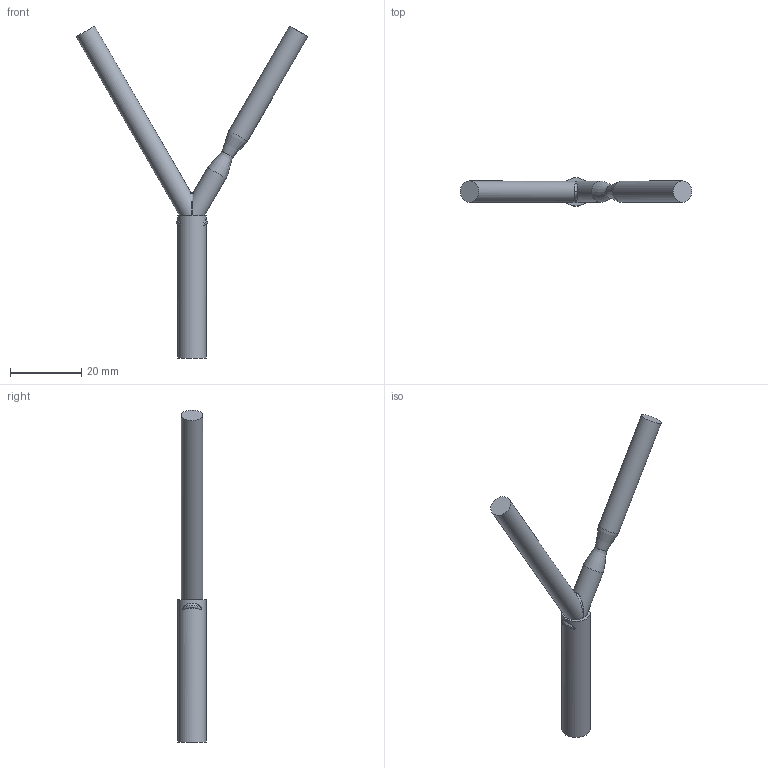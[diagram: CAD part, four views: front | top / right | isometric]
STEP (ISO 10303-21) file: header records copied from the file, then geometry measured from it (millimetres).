
FILE_DESCRIPTION(('Open CASCADE Model'),'2;1');
FILE_NAME('Open CASCADE Shape Model','2026-10-29T17:59:19',('Author'),( 'Open CASCADE'),'Open CASCADE STEP processor 7.9','Open CASCADE 7.9' ,'Unknown');
FILE_SCHEMA(('AUTOMOTIVE_DESIGN { 1 0 10303 214 1 1 1 1 }'));
Length unit declared in the file: millimetre
Products named in the file (1): Open CASCADE STEP translator 7.9 3
Bounding box: 65.2 x 8 x 93.46 mm (x, y, z)
Volume: 5208.2 mm3; surface area: 3268.4 mm2
Topology: 1 solids, 1 shells, 18 faces, 38 edges, 22 vertices
Faces by surface type: cylinder 6, plane 6, torus 2, bspline 2, revolution 2
Full cylindrical faces by diameter (mm): 6 x3, 8 x1
Entity records: 2398 total; most frequent: CARTESIAN_POINT 1696, DIRECTION 116, ORIENTED_EDGE 72, PCURVE 72, DEFINITIONAL_REPRESENTATION 72, LINE 39, VECTOR 39, B_SPLINE_CURVE_WITH_KNOTS 37
